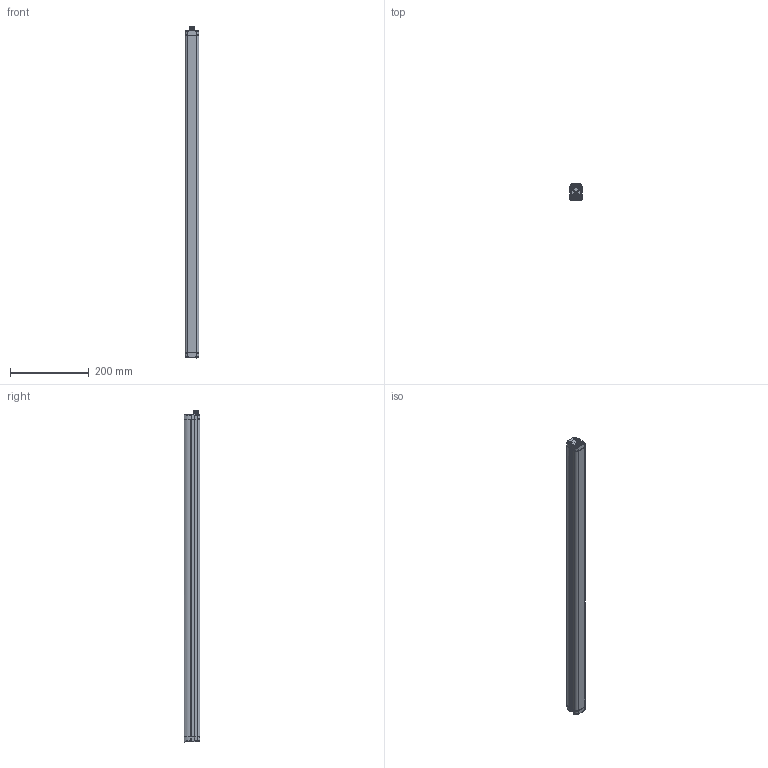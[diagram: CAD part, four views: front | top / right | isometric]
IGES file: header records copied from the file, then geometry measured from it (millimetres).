
Global section: file name: C:\Users\fguttadauro\Desktop\DSD-1022 DS2-05-07-075-JV _RX_IGS.igs; native system: NX V12.0; preprocessor: SIEMENS PLM Software NX 12.0; date: 20200721.143306; units: millimetre
Bounding box: 35 x 40.1 x 844 mm (x, y, z)
Surface area: 174741.3 mm2 (no closed solid volume)
Topology: 0 solids, 0 shells, 1273 faces, 7604 edges, 7453 vertices
Faces by surface type: bspline 1273
